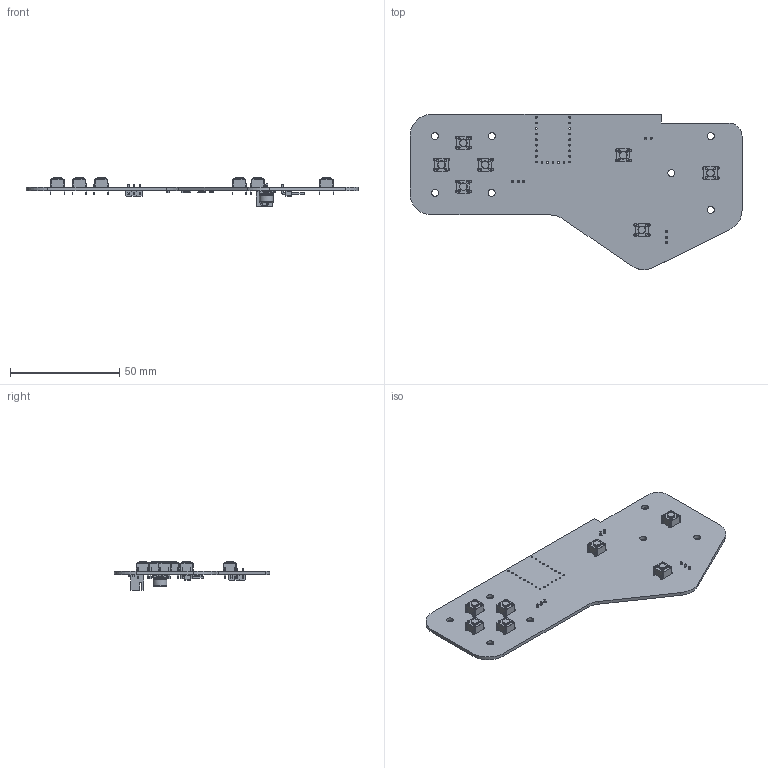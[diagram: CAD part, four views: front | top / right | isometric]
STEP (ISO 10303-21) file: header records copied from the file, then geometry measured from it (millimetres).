
FILE_DESCRIPTION(('KiCad electronic assembly'),'2;1');
FILE_NAME('BMO_pad_pcv.step','2026-09-16T04:22:28',('Pcbnew'),('Kicad'), 'Open CASCADE STEP processor 7.9','KiCad to STEP converter','Unknown' );
FILE_SCHEMA(('AUTOMOTIVE_DESIGN { 1 0 10303 214 1 1 1 1 }'));
Length unit declared in the file: millimetre
Products named in the file (16): BMO_pad_pcv 1; SW_PUSH_6mm_H4.3mm; SW_PUSH_6mm_h4.3mm; JST_XH_B2B-XH-A_1x02_P2.50mm_Vertical; JST_B2B_XH_A; C_0603_1608Metric; R_0603_1608Metric; QFN-24-1EP_4x4mm_P0.5mm_EP2.7x2.7mm; CP_Elec_6.3x5.4; CP_Elec_63x54; PinHeader_1x03_P2.54mm_Horizontal; PinHeader_1x03_P254mm_Horizontal; BMOF445_PCB
Assembly tree (29 placements, depth 3):
  BMO_pad_pcv 1
    SW_PUSH_6mm_H4.3mm  x7
      SW_PUSH_6mm_h4.3mm
    JST_XH_B2B-XH-A_1x02_P2.50mm_Vertical
      JST_B2B_XH_A
    C_0603_1608Metric  x7
      C_0603_1608Metric
    R_0603_1608Metric  x2
      R_0603_1608Metric
    QFN-24-1EP_4x4mm_P0.5mm_EP2.7x2.7mm
      QFN-24-1EP_4x4mm_P0.5mm_EP2.7x2.7mm
    CP_Elec_6.3x5.4
      CP_Elec_63x54
    PinHeader_1x03_P2.54mm_Horizontal  x2
      PinHeader_1x03_P254mm_Horizontal
    BMOF445_PCB
Bounding box: 151.67 x 71.01 x 12.98 mm (x, y, z)
Volume: 13358.8 mm3; surface area: 19232.2 mm2
Topology: 22 solids, 22 shells, 1523 faces, 4037 edges, 2626 vertices
Faces by surface type: plane 1005, cylinder 504, torus 11, bspline 2, revolution 1
Full cylindrical faces by diameter (mm): 0.5 x1, 0.8 x23, 1 x36, 1.1 x28, 3.2 x7, 3.5 x7, 6.3 x2
Entity records: 24053 total; most frequent: CARTESIAN_POINT 3575, ORIENTED_EDGE 3336, DIRECTION 3301, EDGE_CURVE 1668, LINE 1304, VECTOR 1304, VERTEX_POINT 1090, AXIS2_PLACEMENT_3D 998
